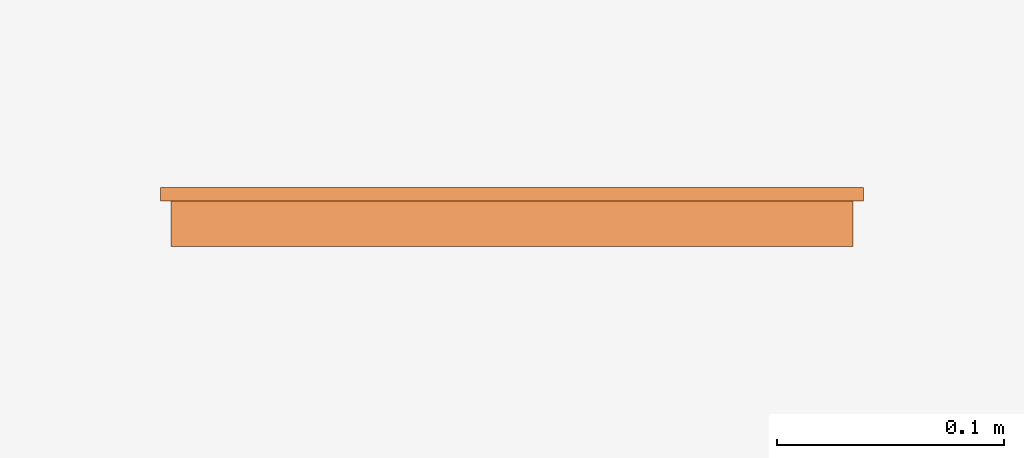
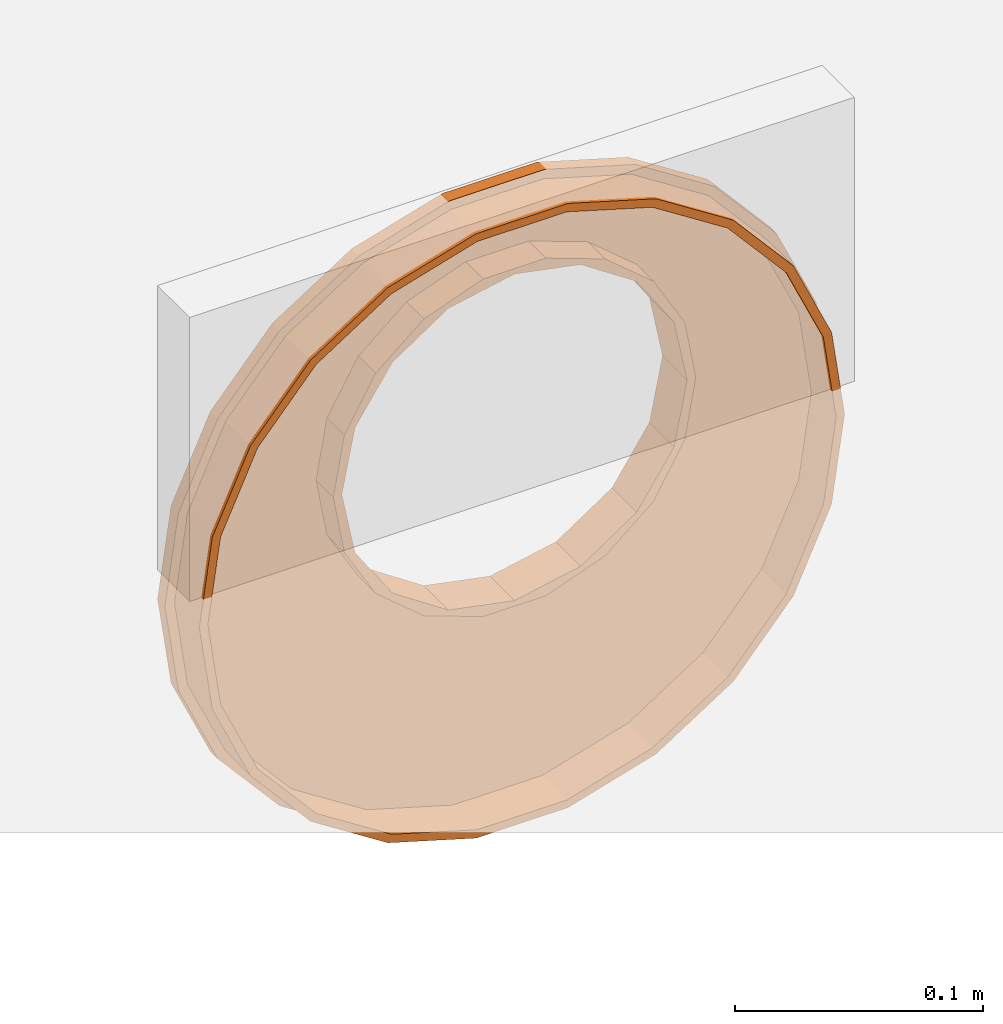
# One storey, part 2 of 2: 1 proxy.
"""IFC2X3 building model written with IfcOpenShell, lengths in millimetres."""

from ifc_helpers import new_model, entity, si_unit, converted_unit, direction, frame, origin, place, context, subcontext, project, spatial, faceted_brep, source, transform, mapped, element, save


model = new_model("IFC2X3")

# Units and contexts
model_context = context("Model", 3, precision=1e-06, world=origin(), true_north=direction((2.0, 6.12303176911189e-17, 1.0)))
context_of_model = context(None, 3, precision=1e-06, world=origin(), true_north=direction((2.0, 6.12303176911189e-17, 1.0)))
body_context = subcontext(model_context, "Body", "Model", "MODEL_VIEW")
ifc_project = project(units=[si_unit("LENGTHUNIT", "METRE", prefix="MILLI"), si_unit("AREAUNIT", "SQUARE_METRE", prefix="MILLI"), si_unit("VOLUMEUNIT", "CUBIC_METRE", prefix="MILLI"), converted_unit("PLANEANGLEUNIT", "DEGREE", entity("IfcRatioMeasure", 0.0174532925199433), si_unit("PLANEANGLEUNIT", "RADIAN"), dimensions=[0, 0, 0, 0, 0, 0, 0]), si_unit("TIMEUNIT", "SECOND")], contexts=[model_context, context_of_model])

# Site, building, storey
site_placement = place(None, origin())
site = spatial("IfcSite", under=ifc_project, at=site_placement, Name="Default", CompositionType="ELEMENT")
building_placement = place(site_placement, origin())
building = spatial("IfcBuilding", under=site, at=building_placement, CompositionType="ELEMENT")
storey_placement = place(building_placement, origin())
storey = spatial("IfcBuildingStorey", under=building, at=storey_placement, Name="Level 1", CompositionType="ELEMENT", Elevation=0.0)

# Proxy
shared_shape = source(origin(), body_context, "Body", "Brep", [
    faceted_brep([(307.741761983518, 21.5952722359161, 128.215843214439), (305.316683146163, 21.5952722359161, 111.349049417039), (305.316683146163, 27.5952722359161, 111.349049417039), (307.741761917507, 27.5952722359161, 128.215842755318), (239.541642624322, 27.5952722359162, 25.9505240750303), (258.098685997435, 27.5952722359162, 37.8764117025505), (258.098685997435, 21.5952722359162, 37.8764117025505), (239.541642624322, 21.5952722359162, 25.9505240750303), (286.989569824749, 27.5952722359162, 71.2182690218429), (296.153126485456, 27.5952722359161, 91.2836592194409), (296.153126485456, 21.5952722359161, 91.2836592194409), (286.989569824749, 21.5952722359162, 71.2182690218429), (220.984599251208, 21.5952722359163, 14.0246364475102), (220.984599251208, 27.5952722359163, 14.0246364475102), (5.44878248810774, 21.5952722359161, 128.215843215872), (5.4487824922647, 27.5952722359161, 128.215843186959), (7.87386132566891, 27.5952722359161, 111.349049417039), (7.87386132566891, 21.5952722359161, 111.349049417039), (311.595272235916, 27.595272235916, 155.017595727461), (311.595272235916, 24.595272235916, 155.017595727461), (199.819335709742, 21.5952722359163, 7.8099543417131), (178.654072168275, 21.5952722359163, 1.59527223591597), (199.819335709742, 27.5952722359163, 7.8099543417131), (272.544127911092, 27.5952722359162, 54.5473403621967), (272.544127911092, 21.5952722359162, 54.5473403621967), (40.6464165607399, 27.5952722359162, 54.5473403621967), (55.0918584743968, 27.5952722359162, 37.8764117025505), (40.6464165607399, 21.5952722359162, 54.5473403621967), (26.2009746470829, 21.5952722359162, 71.2182690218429), (1.595272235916, 24.595272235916, 155.017595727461), (1.595272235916, 27.595272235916, 155.017595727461), (178.654072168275, 27.5952722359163, 1.59527223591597), (311.595272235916, 21.595272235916, 155.01759572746), (156.595272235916, 21.5952722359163, 1.5952722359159), (134.536472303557, 21.5952722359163, 1.5952722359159), (156.595272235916, 27.5952722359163, 1.5952722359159), (113.37120876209, 21.5952722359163, 7.80995434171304), (92.2059452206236, 21.5952722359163, 14.0246364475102), (113.37120876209, 27.5952722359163, 7.80995434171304), (134.536472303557, 27.5952722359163, 1.5952722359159), (73.6489018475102, 21.5952722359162, 25.9505240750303), (55.0918584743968, 21.5952722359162, 37.8764117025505), (73.6489018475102, 27.5952722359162, 25.9505240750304), (92.2059452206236, 27.5952722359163, 14.0246364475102), (17.0374179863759, 27.5952722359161, 91.2836592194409), (17.0374179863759, 21.5952722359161, 91.2836592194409), (26.2009746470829, 27.5952722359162, 71.2182690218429), (1.595272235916, 21.595272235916, 155.017595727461), (307.095272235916, 6.595272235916, 155.01759572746), (307.095272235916, 1.595272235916, 155.01759572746), (300.998964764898, 1.59527223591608, 112.616845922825), (307.095272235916, 11.595272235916, 155.01759572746), (255.151812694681, 1.5952722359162, 41.2772847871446), (219.1152316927, 1.59527223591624, 18.1179804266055), (219.1152316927, 21.5952722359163, 18.1179804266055), (255.151812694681, 21.5952722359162, 41.2772847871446), (283.203928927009, 1.59527223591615, 73.651152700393), (283.203928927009, 21.5952722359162, 73.651152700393), (300.998964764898, 21.5952722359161, 112.616845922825), (178.013655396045, 1.59527223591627, 6.04946872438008), (178.013655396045, 21.5952722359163, 6.04946872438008), (307.095272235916, 16.595272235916, 155.01759572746), (307.095272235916, 21.595272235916, 155.01759572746), (135.176889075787, 1.59527223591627, 6.04946872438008), (135.176889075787, 21.5952722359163, 6.04946872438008), (94.0753127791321, 1.59527223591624, 18.1179804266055), (94.0753127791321, 21.5952722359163, 18.1179804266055), (58.0387317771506, 1.5952722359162, 41.2772847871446), (58.0387317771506, 21.5952722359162, 41.2772847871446), (12.1915797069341, 1.59527223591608, 112.616845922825), (6.09527223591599, 1.595272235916, 155.01759572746), (6.09527223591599, 6.595272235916, 155.01759572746), (6.09527223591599, 11.595272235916, 155.01759572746), (29.9866155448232, 1.59527223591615, 73.651152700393), (29.9866155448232, 21.5952722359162, 73.651152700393), (12.1915797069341, 21.5952722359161, 112.616845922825), (6.09527223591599, 16.595272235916, 155.01759572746), (6.09527223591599, 21.595272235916, 155.017595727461), (297.16099287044, 1.59527223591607, 113.743776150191), (303.095272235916, 1.595272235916, 155.01759572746), (303.095272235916, 6.595272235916, 155.01759572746), (303.095272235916, 11.595272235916, 155.01759572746), (217.453571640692, 21.5952722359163, 21.7565084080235), (217.453571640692, 1.59527223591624, 21.7565084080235), (252.5323697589, 1.5952722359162, 44.3002830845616), (252.5323697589, 21.5952722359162, 44.3002830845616), (279.838914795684, 1.59527223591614, 75.8137159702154), (279.838914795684, 21.5952722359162, 75.8137159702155), (297.16099287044, 21.5952722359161, 113.743776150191), (177.444396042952, 1.59527223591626, 10.0087544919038), (177.444396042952, 21.5952722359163, 10.0087544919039), (303.095272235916, 16.595272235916, 155.01759572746), (303.095272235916, 21.595272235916, 155.01759572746), (135.74614842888, 1.59527223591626, 10.0087544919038), (135.74614842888, 21.5952722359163, 10.0087544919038), (95.7369728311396, 1.59527223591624, 21.7565084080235), (95.7369728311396, 21.5952722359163, 21.7565084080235), (60.6581747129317, 1.5952722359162, 44.3002830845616), (60.6581747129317, 21.5952722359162, 44.3002830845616), (10.095272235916, 6.595272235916, 155.01759572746), (10.095272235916, 1.595272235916, 155.01759572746), (16.0295516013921, 1.59527223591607, 113.743776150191), (10.095272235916, 11.595272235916, 155.01759572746), (33.3516296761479, 1.59527223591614, 75.8137159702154), (33.3516296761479, 21.5952722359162, 75.8137159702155), (16.0295516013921, 21.5952722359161, 113.743776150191), (10.095272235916, 16.595272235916, 155.01759572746), (10.095272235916, 21.595272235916, 155.017595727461), (241.095272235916, 11.095272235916, 192.51759572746), (241.095272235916, 7.59527223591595, 192.51759572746), (235.999298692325, 7.595272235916, 163.616893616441), (241.095272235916, 14.595272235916, 192.51759572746), (77.1912457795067, 21.595272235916, 163.616893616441), (77.1912457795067, 7.595272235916, 163.616893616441), (75.5611156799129, 7.59527223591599, 172.861820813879), (72.095272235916, 14.595272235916, 192.51759572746), (221.32602767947, 21.595272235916, 138.202042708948), (221.32602767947, 7.59527223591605, 138.202042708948), (198.845272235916, 7.59527223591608, 119.338449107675), (198.845272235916, 21.5952722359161, 119.338449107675), (235.999298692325, 21.595272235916, 163.616893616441), (171.268543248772, 7.5952722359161, 109.301340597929), (171.268543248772, 21.5952722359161, 109.301340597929), (241.095272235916, 21.595272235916, 192.51759572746), (241.095272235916, 18.095272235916, 192.51759572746), (141.92200122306, 7.5952722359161, 109.301340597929), (141.92200122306, 21.5952722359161, 109.301340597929), (114.345272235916, 7.59527223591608, 119.338449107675), (114.345272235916, 21.5952722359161, 119.338449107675), (91.8645167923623, 7.59527223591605, 138.202042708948), (91.8645167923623, 21.595272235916, 138.202042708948), (72.095272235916, 18.095272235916, 192.51759572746), (72.095272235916, 21.5952722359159, 192.51759572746), (72.095272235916, 11.095272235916, 192.51759572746), (72.095272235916, 7.59527223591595, 192.51759572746), (230.967574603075, 27.595272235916, 161.711579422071), (230.967574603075, 7.59527223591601, 161.711579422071), (233.299873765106, 7.59527223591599, 173.436839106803), (233.299875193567, 27.595272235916, 173.436846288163), (79.8906673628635, 7.59527223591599, 173.436855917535), (79.8906673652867, 27.595272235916, 173.436855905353), (76.095272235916, 17.595272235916, 192.51759572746), (76.095272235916, 12.595272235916, 192.51759572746), (76.095272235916, 27.595272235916, 192.517595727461), (76.095272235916, 22.595272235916, 192.51759572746), (200.459328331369, 27.5952722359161, 126.870396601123), (187.401288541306, 27.5952722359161, 118.145293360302), (187.401288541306, 7.59527223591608, 118.145293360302), (200.459328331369, 7.59527223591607, 126.870396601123), (222.242471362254, 27.595272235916, 148.653539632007), (213.517368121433, 7.59527223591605, 135.595499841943), (222.242471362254, 7.59527223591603, 148.653539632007), (171.998280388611, 27.5952722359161, 115.081444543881), (156.595272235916, 7.5952722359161, 112.01759572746), (171.998280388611, 7.59527223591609, 115.081444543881), (213.517368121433, 27.5952722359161, 135.595499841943), (237.095272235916, 12.595272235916, 192.51759572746), (237.095272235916, 17.595272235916, 192.51759572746), (237.095272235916, 7.59527223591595, 192.51759572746), (237.095272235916, 22.595272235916, 192.51759572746), (237.095272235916, 27.595272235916, 192.51759572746), (99.6731763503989, 7.59527223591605, 135.595499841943), (112.731216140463, 7.59527223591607, 126.870396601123), (112.731216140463, 27.5952722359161, 126.870396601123), (99.6731763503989, 27.5952722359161, 135.595499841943), (125.789255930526, 7.59527223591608, 118.145293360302), (141.192264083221, 7.59527223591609, 115.081444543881), (141.192264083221, 27.5952722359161, 115.081444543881), (125.789255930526, 27.5952722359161, 118.145293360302), (82.2229698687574, 7.59527223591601, 161.711579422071), (90.9480731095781, 7.59527223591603, 148.653539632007), (90.9480731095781, 27.595272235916, 148.653539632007), (82.2229698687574, 27.595272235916, 161.711579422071), (156.595272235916, 27.5952722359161, 112.01759572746), (76.095272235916, 7.59527223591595, 192.51759572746), (79.8906673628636, 7.59527223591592, 211.598335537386), (233.299875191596, 27.5952722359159, 211.598345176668), (82.2229698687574, 27.5952722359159, 223.32361203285), (82.2229698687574, 7.5952722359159, 223.32361203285), (79.8906673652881, 27.5952722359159, 211.598335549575), (233.29987376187, 7.59527223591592, 211.598352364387), (99.6731763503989, 27.5952722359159, 249.439691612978), (99.6731763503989, 7.59527223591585, 249.439691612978), (90.9480731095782, 7.59527223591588, 236.381651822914), (90.9480731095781, 27.5952722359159, 236.381651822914), (112.731216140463, 27.5952722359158, 258.164794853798), (112.731216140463, 7.59527223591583, 258.164794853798), (125.789255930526, 27.5952722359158, 266.889898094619), (125.789255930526, 7.59527223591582, 266.889898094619), (141.192264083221, 27.5952722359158, 269.95374691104), (141.192264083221, 7.59527223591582, 269.95374691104), (156.595272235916, 27.5952722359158, 273.017595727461), (156.595272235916, 7.59527223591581, 273.017595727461), (171.998280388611, 27.5952722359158, 269.95374691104), (171.998280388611, 7.59527223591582, 269.95374691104), (187.401288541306, 7.59527223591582, 266.889898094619), (187.401288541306, 27.5952722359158, 266.889898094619), (200.459328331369, 27.5952722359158, 258.164794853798), (200.459328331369, 7.59527223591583, 258.164794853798), (230.967574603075, 27.5952722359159, 223.32361203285), (230.967574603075, 7.5952722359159, 223.32361203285), (222.242471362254, 7.59527223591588, 236.381651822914), (222.242471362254, 27.5952722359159, 236.381651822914), (213.517368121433, 7.59527223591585, 249.439691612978), (213.517368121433, 27.5952722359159, 249.439691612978), (77.1912457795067, 21.5952722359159, 221.418297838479), (75.5611156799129, 7.59527223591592, 212.173370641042), (77.1912457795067, 7.5952722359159, 221.418297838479), (91.8645167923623, 7.59527223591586, 246.833148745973), (114.345272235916, 7.59527223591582, 265.696742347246), (114.345272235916, 21.5952722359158, 265.696742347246), (91.8645167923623, 21.5952722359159, 246.833148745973), (141.92200122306, 7.5952722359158, 275.733850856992), (141.92200122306, 21.5952722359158, 275.733850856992), (171.268543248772, 21.5952722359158, 275.733850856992), (171.268543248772, 7.5952722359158, 275.733850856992), (198.845272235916, 7.59527223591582, 265.696742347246), (198.845272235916, 21.5952722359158, 265.696742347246), (221.32602767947, 7.59527223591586, 246.833148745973), (221.32602767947, 21.5952722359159, 246.833148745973), (235.999298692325, 7.5952722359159, 221.418297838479), (235.999298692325, 21.5952722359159, 221.41829783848), (16.0295516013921, 1.59527223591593, 196.29141530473), (60.6581747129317, 21.5952722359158, 265.734908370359), (60.6581747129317, 1.59527223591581, 265.734908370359), (33.3516296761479, 1.59527223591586, 234.221475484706), (33.3516296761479, 21.5952722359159, 234.221475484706), (95.7369728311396, 21.5952722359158, 288.278683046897), (95.7369728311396, 1.59527223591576, 288.278683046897), (16.0295516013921, 21.5952722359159, 196.29141530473), (135.74614842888, 21.5952722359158, 300.026436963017), (135.74614842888, 1.59527223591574, 300.026436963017), (177.444396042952, 21.5952722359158, 300.026436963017), (177.444396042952, 1.59527223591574, 300.026436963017), (217.453571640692, 21.5952722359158, 288.278683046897), (217.453571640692, 1.59527223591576, 288.278683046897), (252.5323697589, 1.59527223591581, 265.734908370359), (252.5323697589, 21.5952722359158, 265.734908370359), (297.16099287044, 1.59527223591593, 196.29141530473), (279.838914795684, 1.59527223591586, 234.221475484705), (279.838914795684, 21.5952722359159, 234.221475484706), (297.16099287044, 21.5952722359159, 196.29141530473), (12.1915797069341, 1.59527223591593, 197.418345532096), (29.9866155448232, 1.59527223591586, 236.384038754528), (58.0387317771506, 1.5952722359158, 268.757906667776), (58.0387317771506, 21.5952722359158, 268.757906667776), (29.9866155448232, 21.5952722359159, 236.384038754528), (94.0753127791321, 1.59527223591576, 291.917211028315), (94.0753127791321, 21.5952722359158, 291.917211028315), (12.1915797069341, 21.5952722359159, 197.418345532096), (135.176889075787, 1.59527223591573, 303.985722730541), (135.176889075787, 21.5952722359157, 303.985722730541), (178.013655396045, 21.5952722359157, 303.985722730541), (178.013655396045, 1.59527223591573, 303.985722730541), (219.1152316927, 1.59527223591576, 291.917211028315), (219.1152316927, 21.5952722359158, 291.917211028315), (255.151812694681, 1.5952722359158, 268.757906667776), (255.151812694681, 21.5952722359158, 268.757906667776), (300.998964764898, 1.59527223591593, 197.418345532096), (283.203928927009, 1.59527223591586, 236.384038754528), (283.203928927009, 21.5952722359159, 236.384038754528), (300.998964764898, 21.5952722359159, 197.418345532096), (5.44878248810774, 21.595272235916, 181.819348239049), (7.87386132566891, 21.5952722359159, 198.686142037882), (7.87386132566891, 27.5952722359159, 198.686142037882), (5.44878249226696, 27.595272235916, 181.819348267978), (286.989569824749, 21.5952722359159, 238.816922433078), (286.989569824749, 27.5952722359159, 238.816922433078), (272.544127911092, 27.5952722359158, 255.487851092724), (239.541642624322, 27.5952722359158, 284.084667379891), (220.984599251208, 27.5952722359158, 296.010555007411), (220.984599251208, 21.5952722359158, 296.010555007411), (239.541642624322, 21.5952722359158, 284.084667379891), (17.0374179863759, 21.5952722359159, 218.75153223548), (26.2009746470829, 21.5952722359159, 238.816922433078), (26.2009746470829, 27.5952722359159, 238.816922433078), (17.0374179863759, 27.5952722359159, 218.75153223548), (73.6489018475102, 27.5952722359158, 284.084667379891), (55.0918584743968, 27.5952722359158, 272.158779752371), (55.0918584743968, 21.5952722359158, 272.158779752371), (73.6489018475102, 21.5952722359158, 284.084667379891), (156.595272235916, 27.5952722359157, 308.439919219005), (134.536472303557, 27.5952722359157, 308.439919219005), (134.536472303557, 21.5952722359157, 308.439919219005), (156.595272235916, 21.5952722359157, 308.439919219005), (113.37120876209, 21.5952722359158, 302.225237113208), (113.37120876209, 27.5952722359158, 302.225237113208), (40.6464165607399, 27.5952722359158, 255.487851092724), (40.6464165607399, 21.5952722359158, 255.487851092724), (199.819335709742, 21.5952722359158, 302.225237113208), (199.819335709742, 27.5952722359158, 302.225237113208), (92.2059452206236, 27.5952722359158, 296.010555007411), (92.2059452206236, 21.5952722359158, 296.010555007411), (258.098685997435, 27.5952722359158, 272.15877975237), (272.544127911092, 21.5952722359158, 255.487851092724), (307.741761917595, 27.595272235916, 181.819348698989), (307.741761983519, 21.595272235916, 181.81934824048), (305.316683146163, 21.5952722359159, 198.686142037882), (305.316683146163, 27.5952722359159, 198.686142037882), (296.153126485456, 27.5952722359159, 218.75153223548), (296.153126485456, 21.5952722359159, 218.75153223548), (178.654072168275, 21.5952722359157, 308.439919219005), (178.654072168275, 27.5952722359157, 308.439919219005), (258.098685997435, 21.5952722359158, 272.15877975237)], [[[0, 1, 2, 3]], [[4, 5, 6, 7]], [[8, 9, 10, 11]], [[4, 7, 12, 13]], [[14, 15, 16, 17]], [[3, 18, 19, 0]], [[20, 21, 22, 13]], [[23, 8, 11, 24]], [[25, 26, 27, 28]], [[29, 30, 15, 14]], [[21, 31, 22]], [[19, 32, 0]], [[5, 23, 24, 6]], [[9, 2, 1, 10]], [[12, 20, 13]], [[33, 34, 35, 31]], [[36, 37, 38, 39]], [[40, 41, 42, 43]], [[44, 45, 17, 16]], [[28, 46, 25]], [[37, 40, 43]], [[36, 39, 34]], [[34, 39, 35]], [[46, 28, 45, 44]], [[27, 26, 41]], [[41, 26, 42]], [[29, 14, 47]], [[37, 43, 38]], [[21, 33, 31]], [[48, 49, 50, 51]], [[52, 53, 54, 55]], [[56, 52, 55, 57]], [[50, 56, 57, 58]], [[54, 53, 59, 60]], [[61, 51, 58, 62]], [[50, 58, 51]], [[60, 59, 63, 64]], [[64, 63, 65, 66]], [[66, 65, 67, 68]], [[69, 70, 71, 72]], [[68, 67, 73, 74]], [[74, 73, 69, 75]], [[75, 72, 76, 77]], [[69, 72, 75]], [[78, 79, 80, 81]], [[82, 83, 84, 85]], [[84, 86, 87, 85]], [[87, 86, 78, 88]], [[89, 83, 82, 90]], [[88, 81, 91, 92]], [[81, 88, 78]], [[93, 89, 90, 94]], [[95, 93, 94, 96]], [[97, 95, 96, 98]], [[99, 100, 101, 102]], [[103, 97, 98, 104]], [[101, 103, 104, 105]], [[106, 102, 105, 107]], [[105, 102, 101]], [[108, 109, 110, 111]], [[112, 113, 114, 115]], [[116, 117, 118, 119]], [[120, 110, 117, 116]], [[119, 118, 121, 122]], [[120, 123, 124, 111]], [[111, 110, 120]], [[122, 121, 125, 126]], [[126, 125, 127, 128]], [[128, 127, 129, 130]], [[112, 115, 131, 132]], [[130, 129, 113, 112]], [[133, 115, 114, 134]], [[135, 136, 137, 138]], [[139, 140, 141, 142]], [[140, 143, 144, 141]], [[145, 146, 147, 148]], [[149, 150, 151, 135]], [[152, 153, 154, 146]], [[148, 150, 155, 145]], [[156, 157, 137, 158]], [[135, 151, 136]], [[159, 160, 138, 157]], [[149, 155, 150]], [[146, 154, 147]], [[161, 162, 163, 164]], [[165, 166, 167, 168]], [[169, 170, 171, 172]], [[166, 153, 173, 167]], [[139, 142, 174]], [[162, 165, 168, 163]], [[138, 137, 157]], [[170, 161, 164, 171]], [[139, 169, 172, 140]], [[152, 173, 153]], [[175, 174, 142, 141]], [[176, 160, 159, 157]], [[177, 178, 175, 179]], [[180, 176, 157, 156]], [[181, 182, 183, 184]], [[182, 181, 185, 186]], [[178, 177, 184, 183]], [[186, 185, 187, 188]], [[188, 187, 189, 190]], [[190, 189, 191, 192]], [[192, 191, 193, 194]], [[195, 196, 197, 198]], [[199, 200, 201, 202]], [[179, 141, 144, 143]], [[203, 204, 202, 201]], [[198, 197, 204, 203]], [[196, 195, 194, 193]], [[179, 175, 141]], [[180, 200, 199, 176]], [[180, 156, 158]], [[205, 115, 206, 207]], [[205, 132, 131, 115]], [[208, 209, 210, 211]], [[207, 208, 211, 205]], [[209, 212, 213, 210]], [[206, 115, 133, 134]], [[214, 213, 212, 215]], [[215, 216, 217, 214]], [[216, 218, 219, 217]], [[220, 109, 108, 111]], [[218, 220, 221, 219]], [[221, 111, 124, 123]], [[221, 220, 111]], [[222, 100, 99, 102]], [[223, 224, 225, 226]], [[227, 228, 224, 223]], [[226, 225, 222, 229]], [[230, 231, 228, 227]], [[229, 102, 106, 107]], [[102, 229, 222]], [[231, 230, 232, 233]], [[234, 235, 233, 232]], [[236, 235, 234, 237]], [[80, 79, 238, 81]], [[239, 236, 237, 240]], [[238, 239, 240, 241]], [[91, 81, 241, 92]], [[241, 81, 238]], [[71, 70, 242, 72]], [[243, 244, 245, 246]], [[244, 247, 248, 245]], [[242, 243, 246, 249]], [[247, 250, 251, 248]], [[76, 72, 249, 77]], [[242, 249, 72]], [[252, 251, 250, 253]], [[253, 254, 255, 252]], [[255, 254, 256, 257]], [[258, 49, 48, 51]], [[257, 256, 259, 260]], [[260, 259, 258, 261]], [[261, 51, 61, 62]], [[258, 51, 261]], [[262, 263, 264, 265]], [[266, 267, 268]], [[269, 270, 271, 272]], [[273, 274, 275, 276]], [[277, 278, 279, 280]], [[281, 282, 283, 284]], [[285, 283, 282, 286]], [[287, 275, 274, 288]], [[289, 271, 270, 290]], [[286, 291, 292, 285]], [[29, 262, 265, 30]], [[268, 293, 294, 266]], [[19, 18, 295, 296]], [[297, 298, 299, 300]], [[278, 287, 288, 279]], [[301, 289, 290, 302]], [[263, 273, 276, 264]], [[302, 281, 284, 301]], [[291, 277, 280, 292]], [[296, 295, 298, 297]], [[303, 293, 269, 272]], [[29, 47, 262]], [[267, 266, 300, 299]], [[294, 293, 303]], [[19, 296, 32]], [[28, 74, 75]], [[74, 28, 27, 41]], [[77, 17, 75]], [[77, 47, 14, 17]], [[75, 17, 45, 28]], [[37, 36, 64, 66]], [[60, 64, 34, 33]], [[68, 41, 40, 37]], [[68, 37, 66]], [[41, 68, 74]], [[249, 263, 262, 47]], [[246, 274, 273, 263]], [[246, 263, 249]], [[274, 246, 245]], [[47, 77, 249]], [[279, 245, 248]], [[245, 279, 288, 274]], [[248, 292, 280, 279]], [[251, 283, 285, 292]], [[251, 292, 248]], [[283, 251, 252]], [[54, 60, 21, 20]], [[55, 54, 12, 7]], [[6, 24, 57, 55]], [[58, 57, 11, 10]], [[62, 58, 1, 0]], [[303, 272, 255, 257]], [[301, 252, 255, 289]], [[271, 289, 255, 272]], [[252, 301, 284, 283]], [[32, 296, 261, 62]], [[260, 261, 297, 300]], [[266, 294, 257, 260]], [[164, 46, 44, 16]], [[16, 15, 172, 171]], [[26, 25, 164, 163]], [[39, 38, 168, 167]], [[31, 35, 173, 152]], [[43, 42, 168, 38]], [[143, 264, 276, 275]], [[30, 265, 143, 140]], [[275, 287, 177, 179]], [[181, 184, 278, 277]], [[291, 286, 187, 185]], [[191, 189, 282, 281]], [[146, 13, 22, 31]], [[146, 145, 5, 4]], [[2, 9, 155, 149]], [[18, 3, 135, 138]], [[8, 23, 155, 9]], [[204, 197, 270, 269]], [[196, 193, 302, 290]], [[267, 299, 160, 176]], [[298, 295, 160, 299]], [[293, 268, 199, 202]], [[73, 103, 101, 69]], [[103, 73, 67, 97]], [[69, 101, 100, 70]], [[65, 63, 93, 95]], [[89, 93, 63, 59]], [[97, 67, 65, 95]], [[222, 242, 70, 100]], [[225, 243, 242, 222]], [[243, 225, 224, 244]], [[244, 224, 228, 247]], [[231, 250, 247, 228]], [[250, 231, 233, 253]], [[83, 89, 59, 53]], [[84, 83, 53, 52]], [[52, 56, 86, 84]], [[78, 86, 56, 50]], [[79, 78, 50, 49]], [[256, 254, 235, 236]], [[253, 233, 235, 254]], [[49, 258, 238, 79]], [[239, 238, 258, 259]], [[259, 256, 236, 239]], [[105, 104, 130, 112]], [[107, 105, 112, 229]], [[104, 98, 128, 130]], [[96, 94, 126, 128]], [[122, 126, 94, 90]], [[128, 98, 96]], [[132, 226, 229, 112]], [[205, 223, 226, 132]], [[223, 205, 211, 227]], [[227, 211, 210, 230]], [[230, 210, 213]], [[230, 213, 214, 232]], [[122, 90, 82, 119]], [[116, 119, 87, 88]], [[119, 82, 85, 87]], [[88, 92, 120, 116]], [[120, 92, 241]], [[234, 217, 219, 237]], [[232, 214, 217, 234]], [[241, 240, 123, 120]], [[240, 237, 221, 123]], [[221, 237, 219]], [[136, 151, 117, 110]], [[118, 117, 150, 148]], [[158, 137, 110, 109]], [[147, 154, 121, 118]], [[125, 121, 153]], [[220, 158, 109]], [[218, 200, 220]], [[220, 200, 180, 158]], [[216, 203, 218]], [[218, 203, 201, 200]], [[215, 195, 216]], [[216, 195, 198, 203]], [[215, 192, 194, 195]], [[127, 125, 165]], [[127, 165, 162, 161]], [[129, 127, 161]], [[113, 129, 169]], [[113, 169, 139, 174]], [[174, 134, 114, 113]], [[129, 161, 170, 169]], [[212, 209, 188, 190]], [[182, 186, 209, 208]], [[215, 212, 192]], [[174, 175, 207, 206]], [[178, 183, 208, 207]], [[125, 153, 166, 165]], [[64, 36, 34]], [[60, 33, 21]], [[54, 20, 12]], [[55, 7, 6]], [[57, 24, 11]], [[58, 10, 1]], [[62, 0, 32]], [[261, 296, 297]], [[257, 294, 303]], [[260, 300, 266]], [[172, 15, 30, 140]], [[164, 25, 46]], [[26, 163, 168, 42]], [[39, 167, 173, 35]], [[16, 171, 164]], [[143, 265, 264]], [[177, 287, 278, 184]], [[275, 179, 143]], [[181, 277, 291, 185]], [[187, 286, 282, 189]], [[5, 145, 155, 23]], [[146, 4, 13]], [[135, 3, 2, 149]], [[18, 138, 160, 295]], [[270, 197, 196, 290]], [[302, 193, 191, 281]], [[204, 269, 293, 202]], [[199, 268, 267, 176]], [[31, 152, 146]], [[117, 151, 150]], [[110, 137, 136]], [[121, 154, 153]], [[118, 148, 147]], [[209, 186, 188]], [[212, 190, 192]], [[207, 175, 178]], [[208, 183, 182]], [[174, 206, 134]]]),
])
proxy_placement = place(storey_placement, frame((-10332.7495942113, 1313.51616248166, -569.517595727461)))
element("IfcBuildingElementProxy", 1, at=proxy_placement, inside=storey, Name="150-225 Step Connector:150-225 Step Connector:150-225 Step Connector", ObjectType="150-225 Step Connector", CompositionType="ELEMENT", context=body_context, shape_type="MappedRepresentation", body=[
    mapped(shared_shape, transform((0.0, 0.0, 0.0), scale=1.0)),
])

save(model, "model.ifc")
